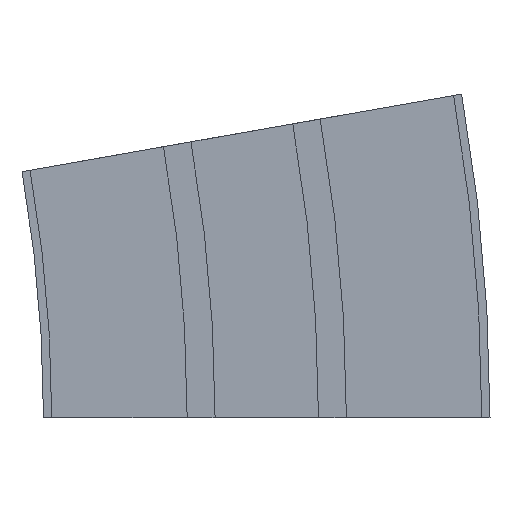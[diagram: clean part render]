
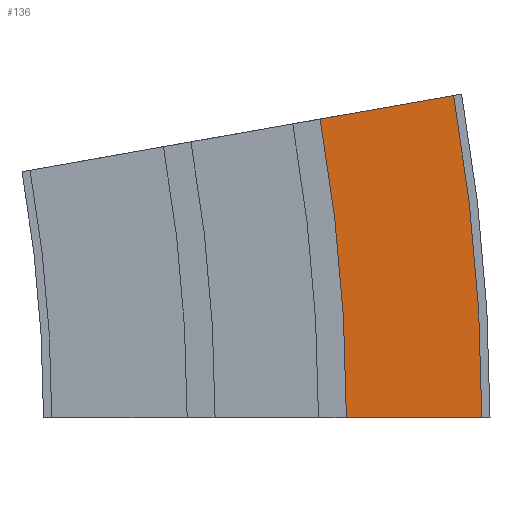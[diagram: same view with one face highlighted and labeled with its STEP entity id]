
A CAD part, left-side view. The second image highlights one B-rep face of the part: STEP entity #136.
In plain terms, the highlighted planar face has unit normal (-1, 0, 0).
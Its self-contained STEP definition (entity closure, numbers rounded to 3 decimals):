
#44 = AXIS2_PLACEMENT_3D ( 'NONE', #773, #774, #775 ) ;
#61 = AXIS2_PLACEMENT_3D ( 'NONE', #766, #767, #768 ) ;
#62 = AXIS2_PLACEMENT_3D ( 'NONE', #758, #759, #760 ) ;
#89 = EDGE_CURVE ( 'NONE', #450, #343, #309, .T. ) ;
#92 = EDGE_CURVE ( 'NONE', #448, #340, #302, .T. ) ;
#93 = EDGE_CURVE ( 'NONE', #450, #448, #306, .T. ) ;
#94 = EDGE_CURVE ( 'NONE', #343, #340, #299, .T. ) ;
#136 = ADVANCED_FACE ( 'NONE', ( #582 ), #817, .F. ) ;
#173 = DIRECTION ( 'NONE',  ( 0., -1., 0. ) ) ;
#296 = VECTOR ( 'NONE', #173, 1000. ) ;
#298 = VECTOR ( 'NONE', #756, 1000. ) ;
#299 = LINE ( 'NONE', #854, #296 ) ;
#302 = CIRCLE ( 'NONE', #61, 565.5 ) ;
#306 = LINE ( 'NONE', #765, #298 ) ;
#309 = CIRCLE ( 'NONE', #62, 524.25 ) ;
#340 = VERTEX_POINT ( 'NONE', #750 ) ;
#343 = VERTEX_POINT ( 'NONE', #752 ) ;
#448 = VERTEX_POINT ( 'NONE', #743 ) ;
#450 = VERTEX_POINT ( 'NONE', #745 ) ;
#582 = FACE_OUTER_BOUND ( 'NONE', #988, .T. ) ;
#743 = CARTESIAN_POINT ( 'NONE',  ( -325.25, -56.909, 98.198 ) ) ;
#745 = CARTESIAN_POINT ( 'NONE',  ( -325.25, -16.285, 91.035 ) ) ;
#750 = CARTESIAN_POINT ( 'NONE',  ( -325.25, -65.5, 0. ) ) ;
#752 = CARTESIAN_POINT ( 'NONE',  ( -325.25, -24.25, 0. ) ) ;
#756 = DIRECTION ( 'NONE',  ( 0., -0.985, 0.174 ) ) ;
#758 = CARTESIAN_POINT ( 'NONE',  ( -325.25, 500., 0. ) ) ;
#759 = DIRECTION ( 'NONE',  ( 1., 0., 0. ) ) ;
#760 = DIRECTION ( 'NONE',  ( 0., 0., -1. ) ) ;
#765 = CARTESIAN_POINT ( 'NONE',  ( -325.25, -16.285, 91.035 ) ) ;
#766 = CARTESIAN_POINT ( 'NONE',  ( -325.25, 500., 0. ) ) ;
#767 = DIRECTION ( 'NONE',  ( 1., 0., 0. ) ) ;
#768 = DIRECTION ( 'NONE',  ( 0., 0., -1. ) ) ;
#773 = CARTESIAN_POINT ( 'NONE',  ( -325.25, -16.285, 91.035 ) ) ;
#774 = DIRECTION ( 'NONE',  ( 1., 0., 0. ) ) ;
#775 = DIRECTION ( 'NONE',  ( 0., 0., -1. ) ) ;
#817 = PLANE ( 'NONE',  #44 ) ;
#854 = CARTESIAN_POINT ( 'NONE',  ( -325.25, -24.25, 0. ) ) ;
#988 = EDGE_LOOP ( 'NONE', ( #1000, #999, #998, #997 ) ) ;
#997 = ORIENTED_EDGE ( 'NONE', *, *, #94, .T. ) ;
#998 = ORIENTED_EDGE ( 'NONE', *, *, #89, .T. ) ;
#999 = ORIENTED_EDGE ( 'NONE', *, *, #93, .F. ) ;
#1000 = ORIENTED_EDGE ( 'NONE', *, *, #92, .F. ) ;
